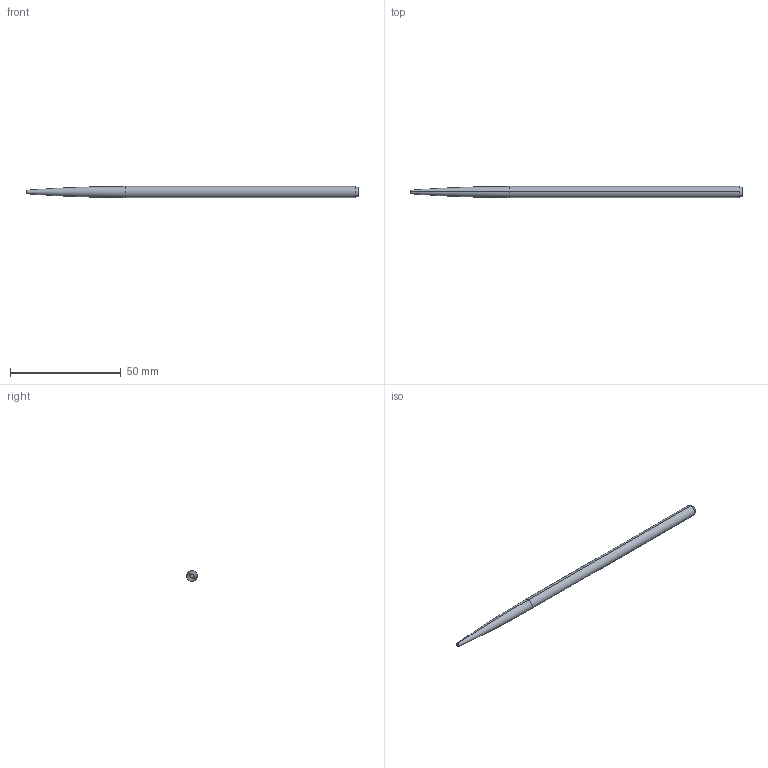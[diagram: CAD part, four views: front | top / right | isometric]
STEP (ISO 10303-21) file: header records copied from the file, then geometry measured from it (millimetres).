
FILE_DESCRIPTION (( 'STEP AP203' ), '1' );
FILE_NAME ('チタンスーパーソー丸.STEP', '2026-07-03T06:26:23', ( '' ), ( '' ), 'SwSTEP 2.0', 'SolidWorks 2016', '' );
FILE_SCHEMA (( 'CONFIG_CONTROL_DESIGN' ));
Length unit declared in the file: millimetre
Products named in the file (1): チタンスーパーソー丸
Bounding box: 150 x 5 x 5 mm (x, y, z)
Volume: 2623.8 mm3; surface area: 2211.4 mm2
Topology: 1 solids, 1 shells, 8 faces, 14 edges, 8 vertices
Faces by surface type: cylinder 2, cone 2, plane 2, torus 2
Entity records: 273 total; most frequent: DIRECTION 42, CARTESIAN_POINT 31, ORIENTED_EDGE 28, AXIS2_PLACEMENT_3D 19, EDGE_CURVE 14, CIRCLE 10, ADVANCED_FACE 8, EDGE_LOOP 8
